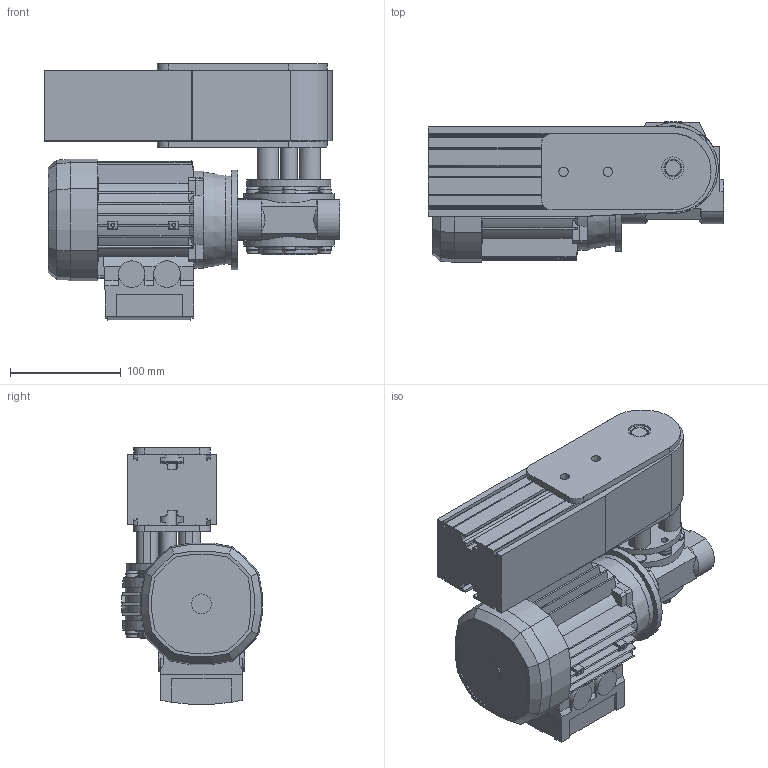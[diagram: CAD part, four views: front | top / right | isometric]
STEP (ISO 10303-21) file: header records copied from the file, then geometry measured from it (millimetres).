
FILE_DESCRIPTION((''),'2;1');
FILE_NAME('C:\Vault Klient\Projekt\Koncept konstruktion\Serie 620 Drivenhet\620-392V.stp','2010-07-02T07:42:07',('Mathias'),(''),'Autodesk Inventor 2010','Autodesk Inventor 2010','');
FILE_SCHEMA(('CONFIG_CONTROL_DESIGN'));
Length unit declared in the file: millimetre
Products named in the file (1): 620-392V
Bounding box: 266.52 x 126.89 x 231.87 mm (x, y, z)
Volume: 1727428.7 mm3; surface area: 540598.7 mm2
Topology: 1 solids, 13 shells, 1394 faces, 3693 edges, 2359 vertices
Faces by surface type: plane 644, cylinder 392, bspline 192, cone 118, torus 48
Full cylindrical faces by diameter (mm): 2.8 x4, 3.432 x4, 4.351 x4, 5.188 x8, 5.5 x8, 6 x4, 8 x3, 13.3 x1, 13.5 x1, 14 x1, 14.3 x3, 15 x4, 15.001 x1, 18 x1, 20 x1, 22 x1, 24 x4, 24.5 x2, 27 x1, 28 x1, 30 x2, 32 x2, 35 x2, 45 x2, 50 x4, 60 x1, 76 x1, 80 x2, 82 x2, 84 x2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
Entity records: 47767 total; most frequent: CARTESIAN_POINT 13773, ORIENTED_EDGE 7034, DIRECTION 6753, EDGE_CURVE 3517, AXIS2_PLACEMENT_3D 2546, VERTEX_POINT 2305, VECTOR 1661, LINE 1661
